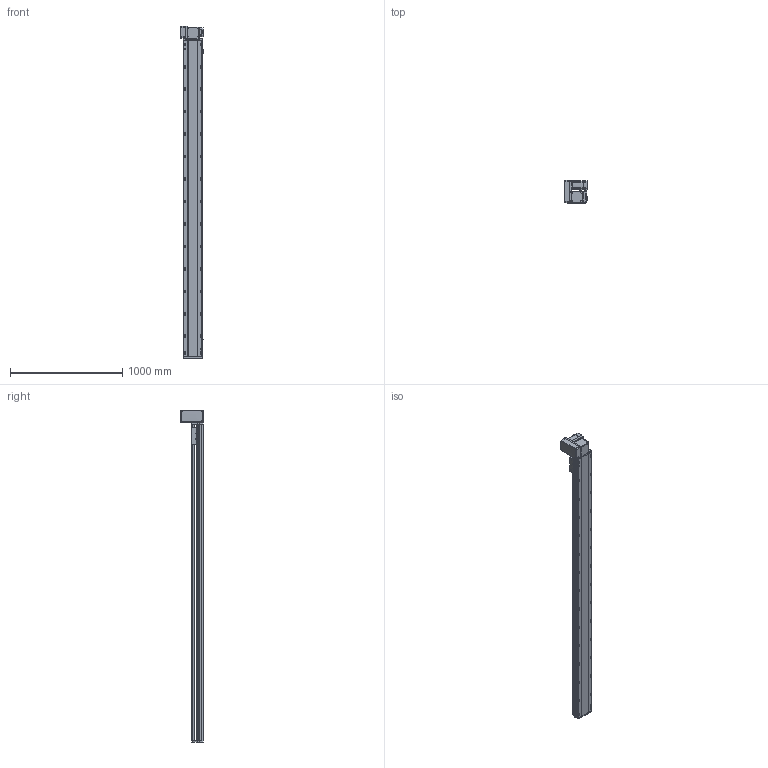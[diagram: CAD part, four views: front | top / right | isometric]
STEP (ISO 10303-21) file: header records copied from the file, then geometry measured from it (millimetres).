
FILE_DESCRIPTION (( 'STEP AP214' ), '1' );
FILE_NAME ('RTB17S-XX-2550-LW-M75-C4.STEP', '2025-12-12T01:17:39', ( '' ), ( '' ), 'SwSTEP 2.0', 'SolidWorks 2018', '' );
FILE_SCHEMA (( 'AUTOMOTIVE_DESIGN' ));
Length unit declared in the file: millimetre
Products named in the file (15): RTB17S-XX-2550-LW-M75-C4; RTB17-R-011菁釱^RTB17S-XX-XX-LW-M75-C4; 750W萇儂^RTB17S-XX-XX-LW-M75-C4; RTB17S-L-014-T20-P75--々湍釱^RTB17S-LW-々湍釱蚾饜-750W_RTB17S-XX-XX-LW-M75-C4; RTB17S-L-004-賑釱^RTB17S-賑釱_RTB17S-XX-XX-LW-M75-C4; RTB17S-L-007奻裔^RTB17S-XX-XX-LW-M75-C4; RTB22S-GY-017P^RTB17S-LW-々湍釱蚾饜-750W_RTB17S-XX-XX-LW-M75-C4; RTB22S-GY-008-M75--萇儂啣^RTB17S-LW-々湍釱蚾饜-750W_RTB17S-XX-XX-LW-M75-C4; RTB17S-L-001-耜醱啣^RTB17S-XX-XX-LW-M75-C4; RTB17S-LW-々湍釱蚾饜-750W^RTB17S-XX-XX-LW-M75-C4; RTH13-BL-012覜茼え俋离^RTB17S-賑釱_RTB17S-XX-XX-LW-M75-C4; RTB22S-GY-005P^RTB17S-LW-々湍釱蚾饜-750W_RTB17S-XX-XX-LW-M75-C4; RTB17S-賑釱^RTB17S-XX-XX-LW-M75-C4; EE672^RTB17S-XX-XX-LW-M75-C4; RTB22S-GY-018P^RTB17S-LW-々湍釱蚾饜-750W_RTB17S-XX-XX-LW-M75-C4
Assembly tree (17 placements, depth 3):
  RTB17S-XX-2550-LW-M75-C4
    RTB17-R-011菁釱^RTB17S-XX-XX-LW-M75-C4
    EE672^RTB17S-XX-XX-LW-M75-C4  x3
    RTB17S-L-001-耜醱啣^RTB17S-XX-XX-LW-M75-C4
    RTB17S-賑釱^RTB17S-XX-XX-LW-M75-C4
      RTB17S-L-004-賑釱^RTB17S-賑釱_RTB17S-XX-XX-LW-M75-C4
      RTH13-BL-012覜茼え俋离^RTB17S-賑釱_RTB17S-XX-XX-LW-M75-C4
    RTB17S-L-007奻裔^RTB17S-XX-XX-LW-M75-C4
    750W萇儂^RTB17S-XX-XX-LW-M75-C4
    RTB17S-LW-々湍釱蚾饜-750W^RTB17S-XX-XX-LW-M75-C4
      RTB17S-L-014-T20-P75--々湍釱^RTB17S-LW-々湍釱蚾饜-750W_RTB17S-XX-XX-LW-M75-C4
      RTB22S-GY-005P^RTB17S-LW-々湍釱蚾饜-750W_RTB17S-XX-XX-LW-M75-C4
      RTB22S-GY-017P^RTB17S-LW-々湍釱蚾饜-750W_RTB17S-XX-XX-LW-M75-C4  x2
      RTB22S-GY-008-M75--萇儂啣^RTB17S-LW-々湍釱蚾饜-750W_RTB17S-XX-XX-LW-M75-C4
      RTB22S-GY-018P^RTB17S-LW-々湍釱蚾饜-750W_RTB17S-XX-XX-LW-M75-C4
Bounding box: 210.4 x 201.5 x 2957.5 mm (x, y, z)
Volume: 21890435.3 mm3; surface area: 3974829.3 mm2
Topology: 17 solids, 17 shells, 2217 faces, 6214 edges, 4022 vertices
Faces by surface type: plane 986, cylinder 815, bspline 294, cone 110, sphere 8, torus 4
Entity records: 64246 total; most frequent: CARTESIAN_POINT 19078, ORIENTED_EDGE 9272, DIRECTION 8582, EDGE_CURVE 4636, AXIS2_PLACEMENT_3D 3042, VERTEX_POINT 3026, LINE 2498, VECTOR 2498
